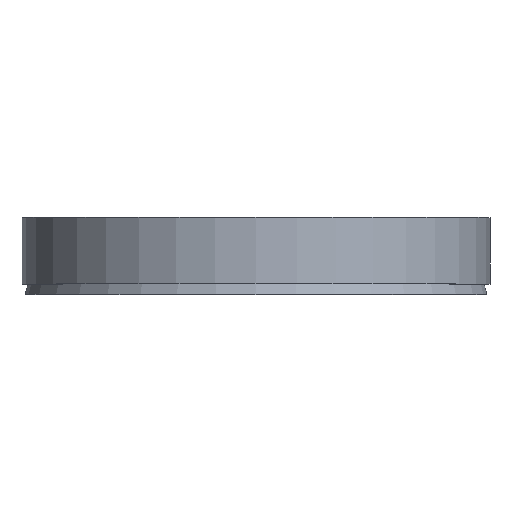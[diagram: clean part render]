
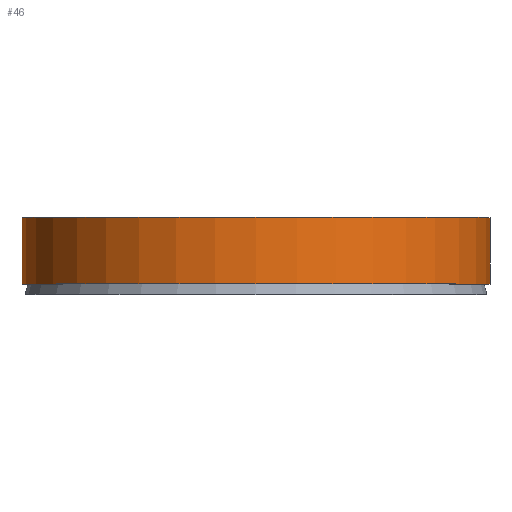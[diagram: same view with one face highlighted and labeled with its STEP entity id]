
A CAD part, top view. The second image highlights one B-rep face of the part: STEP entity #46.
In plain terms, the highlighted cylindrical face has radius 36.5 mm (diameter 73 mm), a full revolution.
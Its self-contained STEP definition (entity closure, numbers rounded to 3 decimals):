
#46 = ADVANCED_FACE( '', ( #93, #94 ), #95, .T. );
#93 = FACE_OUTER_BOUND( '', #132, .T. );
#94 = FACE_OUTER_BOUND( '', #133, .T. );
#95 = CYLINDRICAL_SURFACE( '', #134, 36.5 );
#132 = EDGE_LOOP( '', ( #179 ) );
#133 = EDGE_LOOP( '', ( #180 ) );
#134 = AXIS2_PLACEMENT_3D( '', #181, #182, #183 );
#179 = ORIENTED_EDGE( '', *, *, #189, .F. );
#180 = ORIENTED_EDGE( '', *, *, #198, .T. );
#181 = CARTESIAN_POINT( '', ( 0., -60., 0. ) );
#182 = DIRECTION( '', ( 0., 1., 0. ) );
#183 = DIRECTION( '', ( 0., 0., -1. ) );
#189 = EDGE_CURVE( '', #208, #208, #209, .T. );
#198 = EDGE_CURVE( '', #221, #221, #222, .T. );
#208 = VERTEX_POINT( '', #232 );
#209 = CIRCLE( '', #233, 36.5 );
#221 = VERTEX_POINT( '', #245 );
#222 = CIRCLE( '', #246, 36.5 );
#232 = CARTESIAN_POINT( '', ( 0., 1.6, -36.5 ) );
#233 = AXIS2_PLACEMENT_3D( '', #257, #258, #259 );
#245 = CARTESIAN_POINT( '', ( 0., 12., -36.5 ) );
#246 = AXIS2_PLACEMENT_3D( '', #269, #270, #271 );
#257 = CARTESIAN_POINT( '', ( 0., 1.6, 0. ) );
#258 = DIRECTION( '', ( 0., -1., 0. ) );
#259 = DIRECTION( '', ( 0., 0., -1. ) );
#269 = CARTESIAN_POINT( '', ( 0., 12., 0. ) );
#270 = DIRECTION( '', ( 0., -1., 0. ) );
#271 = DIRECTION( '', ( 0., 0., -1. ) );
